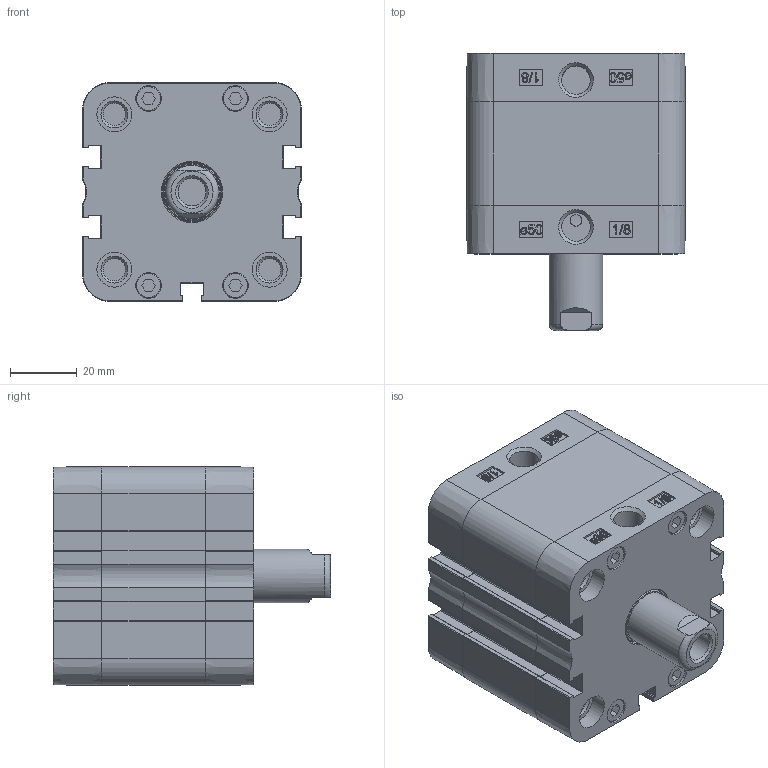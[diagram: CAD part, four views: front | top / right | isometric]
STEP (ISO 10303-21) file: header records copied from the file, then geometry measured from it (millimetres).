
FILE_DESCRIPTION(/* description */ ('Unknown'),/* implementation_level */ '2;1');
FILE_NAME(/* name */ 'ZENV 50_15',/* time_stamp */ '2024-09-12T14:32:53+02:00',/* author */ ('Unknown'),/* organization */ ('Unknown'),/* preprocessor_version */ 'ST-DEVELOPER v16.7',/* originating_system */ 'Solid Edge',/* authorisation */ 'Unknown');
FILE_SCHEMA (('AUTOMOTIVE_DESIGN {1 0 10303 214 3 1 1}'));
Length unit declared in the file: millimetre
Products named in the file (5): ZENV 50_15; Profilrohr; Kolbenstange; Kit_1; Kit_2
Assembly tree (4 placements, depth 2):
  ZENV 50_15
    Profilrohr
    Kolbenstange
    Kit_1
    Kit_2
Bounding box: 65.5 x 83 x 65.5 mm (x, y, z)
Volume: 209751.1 mm3; surface area: 58717.7 mm2
Topology: 4 solids, 12 shells, 730 faces, 1904 edges, 1257 vertices
Faces by surface type: plane 336, cylinder 211, bspline 108, torus 43, cone 32
Full cylindrical faces by diameter (mm): 3.5 x1, 5.2 x8, 6.647 x8, 7.5 x8, 7.7 x8, 8.376 x1, 8.566 x2, 10.5 x8, 12 x1, 16 x1, 16.54 x1, 17.7 x1, 18 x1, 20.5 x1, 50 x2
Entity records: 27419 total; most frequent: CARTESIAN_POINT 5805, ORIENTED_EDGE 3560, DIRECTION 3266, EDGE_CURVE 1780, VERTEX_POINT 1226, AXIS2_PLACEMENT_3D 1125, LINE 1016, VECTOR 1016
